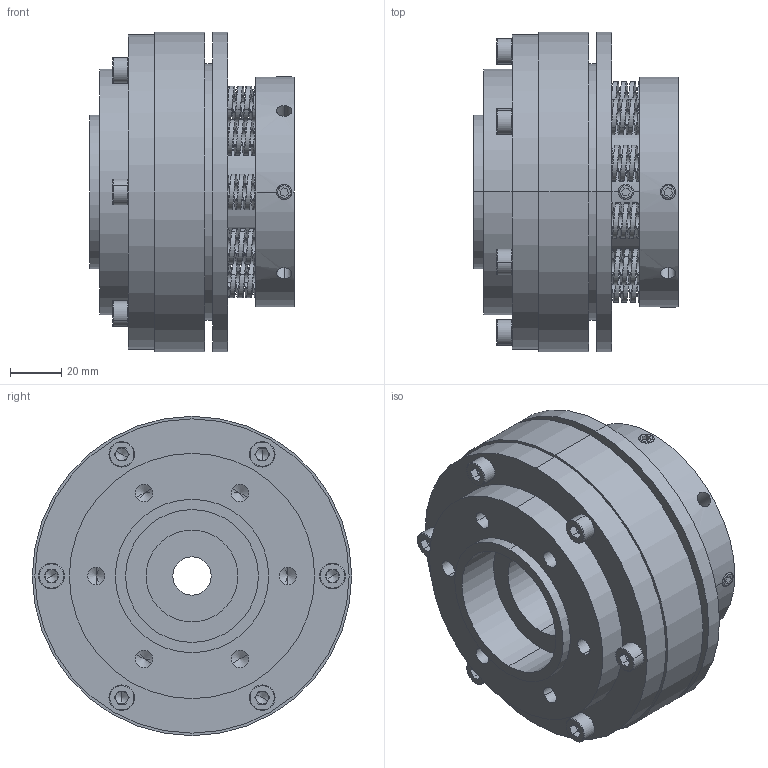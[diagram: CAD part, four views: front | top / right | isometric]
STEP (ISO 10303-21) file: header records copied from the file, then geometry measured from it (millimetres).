
FILE_DESCRIPTION (( 'STEP AP214' ), '1' );
FILE_NAME ('STL150F-H.STEP', '2020-03-01T04:25:01', ( '' ), ( '' ), 'SwSTEP 2.0', 'SolidWorks 2015', '' );
FILE_SCHEMA (( 'AUTOMOTIVE_DESIGN' ));
Length unit declared in the file: millimetre
Products named in the file (1): STL150F-H
Bounding box: 80.1 x 125 x 125 mm (x, y, z)
Volume: 594945.7 mm3; surface area: 104829.7 mm2
Topology: 1 solids, 9 shells, 729 faces, 1881 edges, 1176 vertices
Faces by surface type: cylinder 408, plane 217, cone 48, torus 36, bspline 20
Entity records: 73174 total; most frequent: CARTESIAN_POINT 48097, ORIENTED_EDGE 3698, DIRECTION 3317, EDGE_CURVE 1849, AXIS2_PLACEMENT_3D 1262, VERTEX_POINT 1176, EDGE_LOOP 801, VECTOR 793
